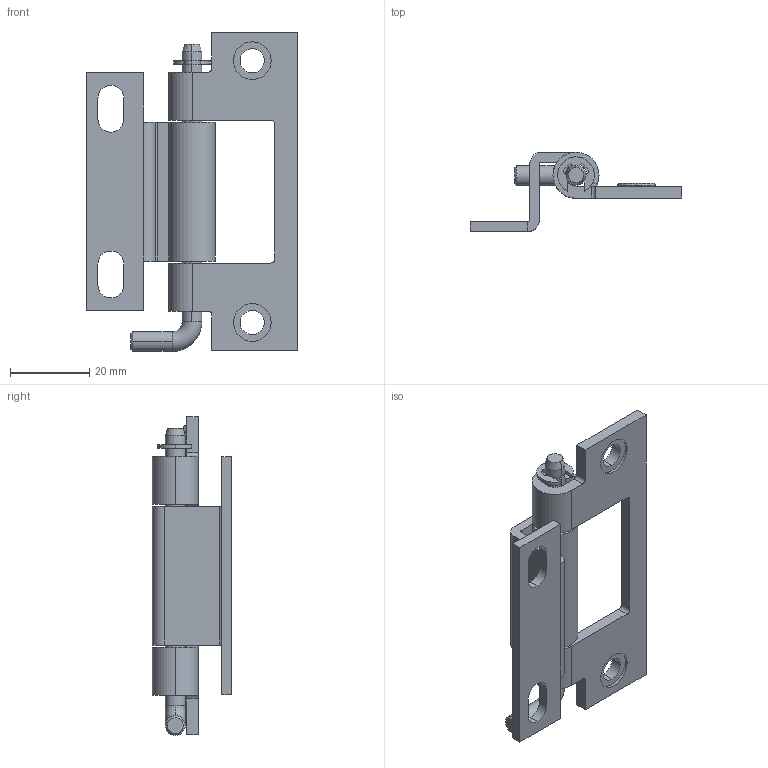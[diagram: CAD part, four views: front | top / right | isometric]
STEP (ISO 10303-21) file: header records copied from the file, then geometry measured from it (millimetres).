
FILE_DESCRIPTION (( 'STEP AP203' ), '1' );
FILE_NAME ('XG02-043-1.STEP', '2023-12-08T06:09:36', ( '' ), ( '' ), 'SwSTEP 2.0', 'SolidWorks 2020', '' );
FILE_SCHEMA (( 'CONFIG_CONTROL_DESIGN' ));
Length unit declared in the file: millimetre
Products named in the file (5): HL031-1B; XG02-043-1; 250-1B; HL031 C- C; 250-1A
Assembly tree (4 placements, depth 2):
  XG02-043-1
    HL031-1B
    HL031 C- C
    250-1A
    250-1B
Bounding box: 53.4 x 20 x 80.4 mm (x, y, z)
Volume: 13419.8 mm3; surface area: 12162.5 mm2
Topology: 4 solids, 4 shells, 122 faces, 312 edges, 204 vertices
Faces by surface type: cylinder 59, plane 53, torus 6, cone 4
Entity records: 4275 total; most frequent: DIRECTION 706, CARTESIAN_POINT 645, ORIENTED_EDGE 624, EDGE_CURVE 312, AXIS2_PLACEMENT_3D 265, VERTEX_POINT 204, VECTOR 176, LINE 176
